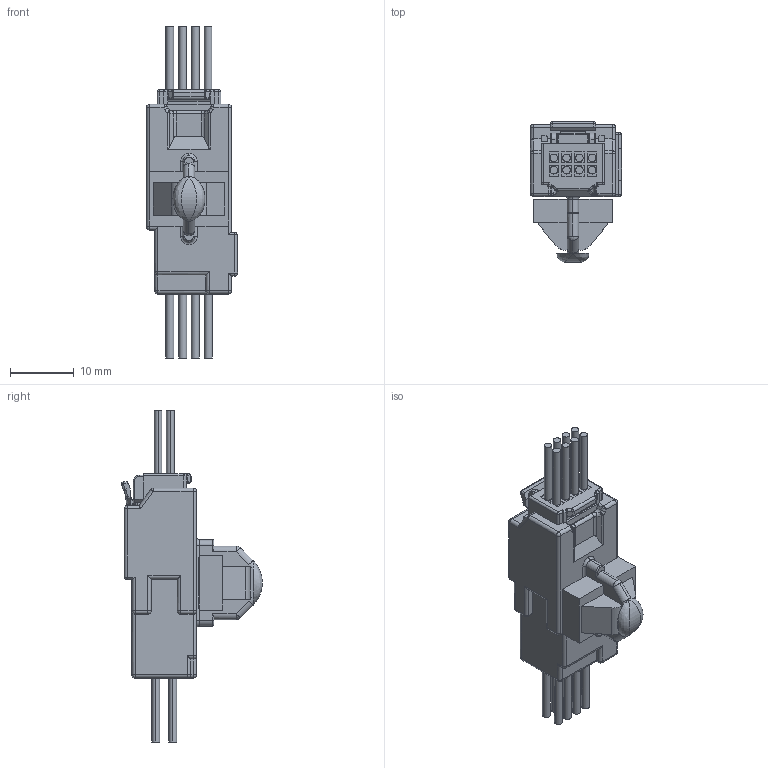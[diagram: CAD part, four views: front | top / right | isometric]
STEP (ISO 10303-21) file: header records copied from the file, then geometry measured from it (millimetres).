
FILE_DESCRIPTION (( 'STEP AP214' ), '1' );
FILE_NAME ('ISHVW 8P MATING.STEP', '2021-03-15T12:15:43', ( 'system_local' ), ( 'Microsoft' ), 'SwSTEP 2.0', 'SolidWorks 2017', '' );
FILE_SCHEMA (( 'AUTOMOTIVE_DESIGN' ));
Length unit declared in the file: millimetre
Products named in the file (1): ISHVW 8P MATING
Bounding box: 14.25 x 21.99 x 51.95 mm (x, y, z)
Volume: 4886.8 mm3; surface area: 3029.5 mm2
Topology: 1 solids, 1 shells, 508 faces, 1248 edges, 741 vertices
Faces by surface type: plane 216, cylinder 204, torus 32, sphere 32, bspline 24
Entity records: 20550 total; most frequent: CARTESIAN_POINT 3515, ORIENTED_EDGE 2428, DIRECTION 2407, EDGE_CURVE 1214, AXIS2_PLACEMENT_3D 835, VERTEX_POINT 741, LINE 737, VECTOR 737
